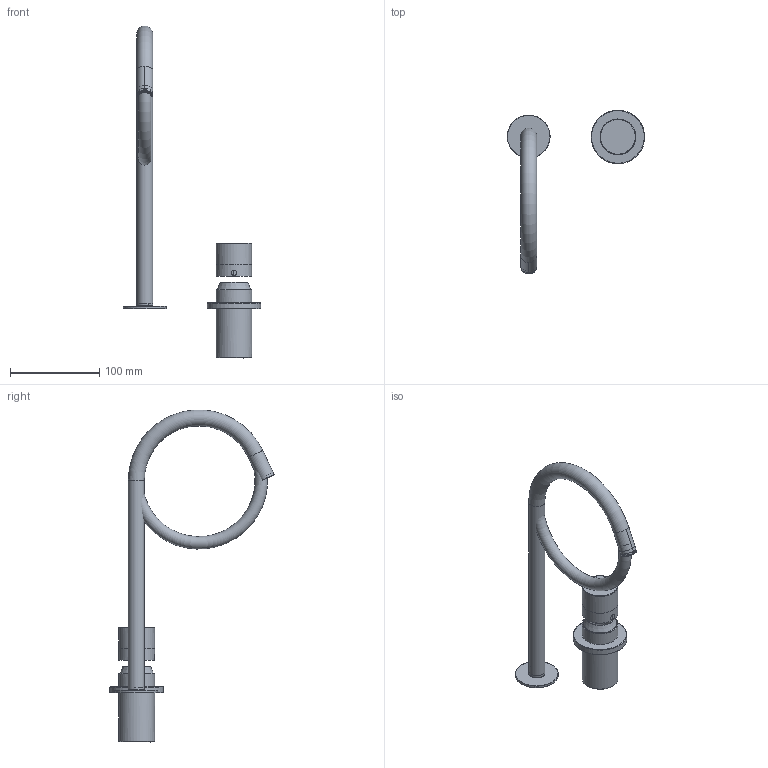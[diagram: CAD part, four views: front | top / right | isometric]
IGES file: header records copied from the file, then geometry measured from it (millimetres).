
Start section: Data from Parasolid IGES Translator 22.0.50, Copyright(c) 2006 Siemens P LM Software. All Rights Reserved.
Global section: file name: noorth-taps-H 31,7 D 17,5 W 14_2564-5841.igs; native system: By Siemens PLM Incorporated; preprocessor: XPlus GENERIC/IGES 22.0.50; author: Noname; organization: Noname; date: 20260215.165007; units: metre
Bounding box: 153.86 x 183.74 x 371.79 mm (x, y, z)
Volume: 245530.5 mm3; surface area: 86105.9 mm2
Topology: 6 solids, 6 shells, 432 faces, 1017 edges, 727 vertices
Faces by surface type: plane 173, cylinder 152, bspline 79, cone 20, torus 6, extrusion 1, revolution 1
Full cylindrical faces by diameter (mm): 1 x52, 13.5 x1, 14 x1, 14.5 x1, 15 x1, 16.5 x2, 18 x1, 23.6 x1, 30 x1, 35.2 x1, 36 x1, 37 x1, 40 x4, 48 x1, 60 x1
